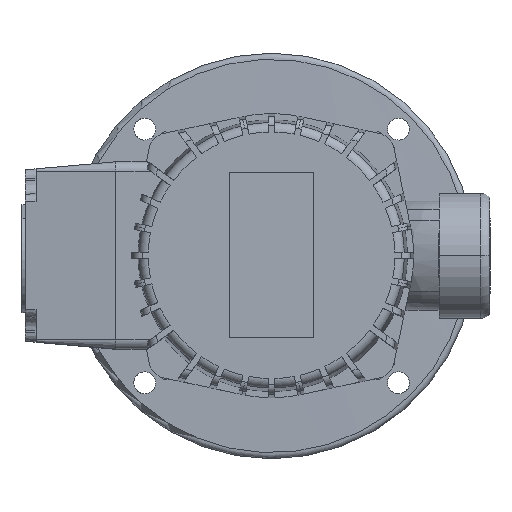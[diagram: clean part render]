
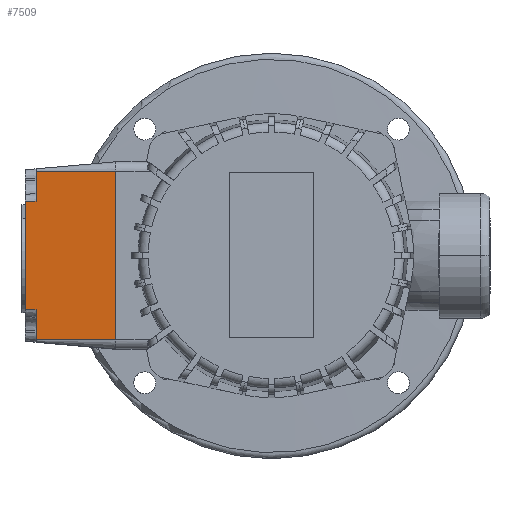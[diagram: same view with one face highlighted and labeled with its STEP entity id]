
A CAD part, top view. The second image highlights one B-rep face of the part: STEP entity #7509.
In plain terms, the highlighted planar face has unit normal (-0.087, 0, 0.996).
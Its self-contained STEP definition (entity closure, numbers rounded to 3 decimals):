
#4713=EDGE_CURVE('',#6869,#4921,#11338,.T.);
#4921=VERTEX_POINT('',#11561);
#4971=EDGE_CURVE('',#8687,#9557,#11618,.T.);
#5705=EDGE_CURVE('',#9473,#9713,#12426,.T.);
#5755=VERTEX_POINT('',#12480);
#6441=EDGE_CURVE('',#8289,#9473,#13250,.T.);
#6477=EDGE_CURVE('',#9713,#5755,#13291,.T.);
#6869=VERTEX_POINT('',#13719);
#7015=EDGE_CURVE('',#6869,#8687,#13883,.T.);
#7119=EDGE_CURVE('',#9557,#8289,#13996,.T.);
#7345=EDGE_CURVE('',#5755,#4921,#14244,.T.);
#7509=ADVANCED_FACE('',(#14421),#14422,.T.);
#8289=VERTEX_POINT('',#15284);
#8687=VERTEX_POINT('',#15721);
#9473=VERTEX_POINT('',#16576);
#9557=VERTEX_POINT('',#16664);
#9713=VERTEX_POINT('',#16843);
#11338=LINE('',#20174,#20175);
#11561=CARTESIAN_POINT('',(-75.5,-27.0,60.269));
#11618=LINE('',#20876,#20877);
#12426=LINE('',#22670,#22671);
#12480=CARTESIAN_POINT('',(-75.5,-17.353,60.269));
#13250=B_SPLINE_CURVE_WITH_KNOTS('',2,(#24386,#24387,#24388),.UNSPECIFIED.,.F.,.F.,(3,3),(0.0,3.513),.UNSPECIFIED.);
#13291=B_SPLINE_CURVE_WITH_KNOTS('',2,(#24457,#24458,#24459),.UNSPECIFIED.,.F.,.F.,(3,3),(0.0,3.513),.UNSPECIFIED.);
#13719=CARTESIAN_POINT('',(-50.0,-27.0,62.5));
#13883=LINE('',#25624,#25625);
#13996=LINE('',#25823,#25824);
#14244=LINE('',#26335,#26336);
#14421=FACE_OUTER_BOUND('',#26711,.T.);
#14422=PLANE('',#26712);
#15284=CARTESIAN_POINT('',(-75.5,17.353,60.269));
#15721=CARTESIAN_POINT('',(-50.0,27.0,62.5));
#16576=CARTESIAN_POINT('',(-79.0,17.326,59.963));
#16664=CARTESIAN_POINT('',(-75.5,27.0,60.269));
#16843=CARTESIAN_POINT('',(-79.0,-17.326,59.963));
#20174=CARTESIAN_POINT('',(-50.0,-27.0,62.5));
#20175=VECTOR('',#33841,1.0);
#20876=CARTESIAN_POINT('',(-50.0,27.0,62.5));
#20877=VECTOR('',#34128,1.0);
#22670=CARTESIAN_POINT('',(-79.0,-27.0,59.963));
#22671=VECTOR('',#35068,1.0);
#24386=CARTESIAN_POINT('',(-75.5,17.353,60.269));
#24387=CARTESIAN_POINT('',(-77.297,17.339,60.112));
#24388=CARTESIAN_POINT('',(-79.0,17.326,59.963));
#24457=CARTESIAN_POINT('',(-79.0,-17.326,59.963));
#24458=CARTESIAN_POINT('',(-77.297,-17.339,60.112));
#24459=CARTESIAN_POINT('',(-75.5,-17.353,60.269));
#25624=CARTESIAN_POINT('',(-50.0,-27.0,62.5));
#25625=VECTOR('',#36795,1.0);
#25823=CARTESIAN_POINT('',(-75.5,25.811,60.269));
#25824=VECTOR('',#36915,1.0);
#26335=CARTESIAN_POINT('',(-75.5,1.189,60.269));
#26336=VECTOR('',#37178,1.0);
#26711=EDGE_LOOP('',(#37369,#37370,#37371,#37372,#37373,#37374,#37375,#37376));
#26712=AXIS2_PLACEMENT_3D('',#37377,#37378,#37379);
#33841=DIRECTION('',(-0.996,0.,-0.087));
#34128=DIRECTION('',(-0.996,0.0,-0.087));
#35068=DIRECTION('',(0.0,-1.0,0.0));
#36795=DIRECTION('',(0.0,1.0,0.0));
#36915=DIRECTION('',(0.0,-1.0,0.0));
#37178=DIRECTION('',(0.0,-1.0,0.0));
#37369=ORIENTED_EDGE('',*,*,#7345,.T.);
#37370=ORIENTED_EDGE('',*,*,#4713,.F.);
#37371=ORIENTED_EDGE('',*,*,#7015,.T.);
#37372=ORIENTED_EDGE('',*,*,#4971,.T.);
#37373=ORIENTED_EDGE('',*,*,#7119,.T.);
#37374=ORIENTED_EDGE('',*,*,#6441,.T.);
#37375=ORIENTED_EDGE('',*,*,#5705,.T.);
#37376=ORIENTED_EDGE('',*,*,#6477,.T.);
#37377=CARTESIAN_POINT('',(-50.0,27.0,62.5));
#37378=DIRECTION('',(-0.087,0.0,0.996));
#37379=DIRECTION('',(0.0,1.0,0.0));
